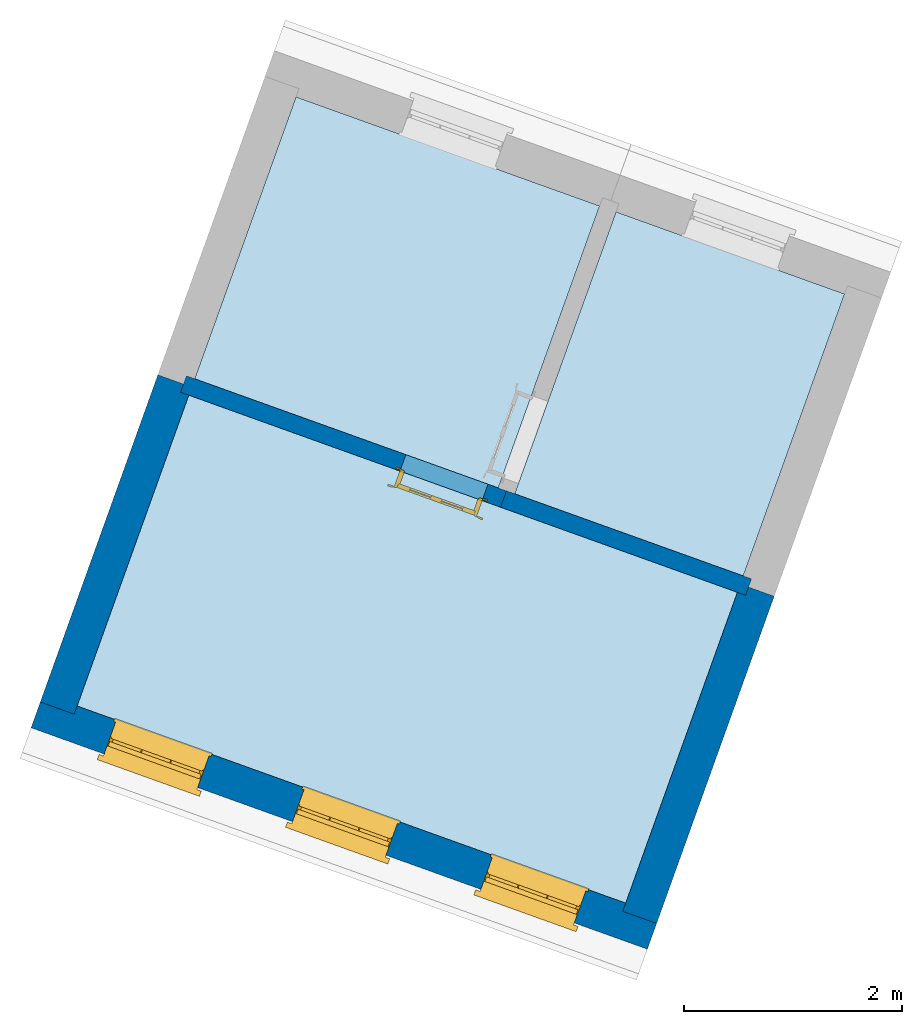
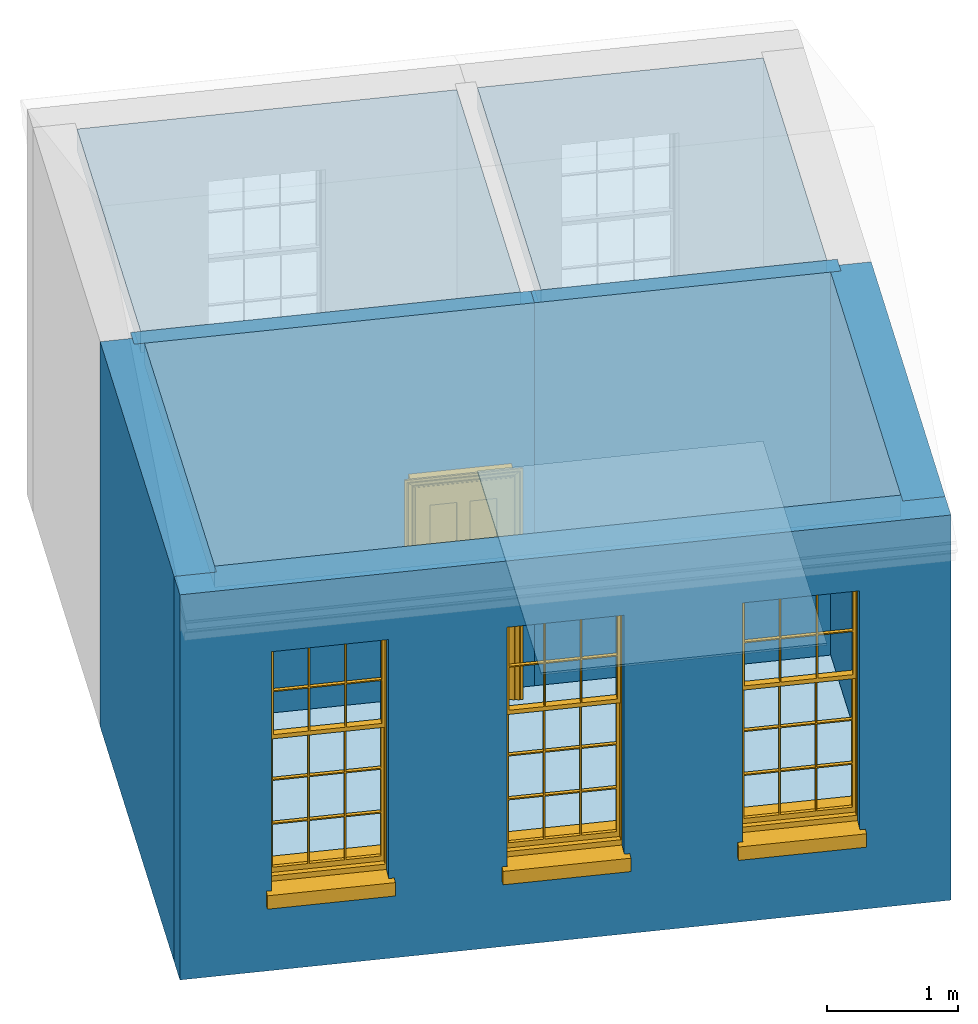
# One storey, part 1 of 3: 5 slabs, 5 walls, 3 windows, 1 door, 4 openings.
"""IFC4 building model written with IfcOpenShell, lengths in metres."""

import ifcopenshell
import ifcopenshell.guid

model = None  # the IFC model being written
_history = None  # IfcOwnerHistory: only IFC2X3 demands one
_inside = {}  # id of a spatial element -> (the spatial element, [elements in it])
_under = {}  # id of a project, library or spatial element -> (it, [spatial elements below it])
_declared = {}  # id of a project -> (the project, [libraries it declares])
_typed = {}  # id of a type object -> (the type object, [elements of that type])
_made_of = {}  # id of a material, layer set ... -> (it, [elements and type objects made of it])


def new_model(schema):
    """Start an empty IFC model of exactly this schema.

    Asked for "IFC4X3", IfcOpenShell would pick the latest addendum, in which some entities
    have other attributes; the version numbers below select the first issue.
    IFC2X3 requires an IfcOwnerHistory on every rooted entity: one is made here for all.
    """
    global model, _history
    if schema == "IFC4X3":
        model = ifcopenshell.file(schema_version=(4, 3, 0, 0))
    else:
        model = ifcopenshell.file(schema=schema)
    _inside.clear()
    _under.clear()
    _declared.clear()
    _typed.clear()
    _made_of.clear()
    _history = None
    if model.schema == "IFC2X3":
        org = make("IfcOrganization", Name="unknown")
        user = make(
            "IfcPersonAndOrganization",
            ThePerson=make("IfcPerson", FamilyName="unknown"),
            TheOrganization=org,
        )
        app = make(
            "IfcApplication",
            ApplicationDeveloper=org,
            Version="unknown",
            ApplicationFullName="unknown",
            ApplicationIdentifier="unknown",
        )
        _history = make(
            "IfcOwnerHistory",
            OwningUser=user,
            OwningApplication=app,
            ChangeAction="ADDED",
            CreationDate=0,
        )
    return model


def make(cls, **values):
    """One entity of the class cls with the attributes given. An attribute that is None is left unset."""
    return model.create_entity(
        cls, **{name: value for name, value in values.items() if value is not None}
    )


def rooted(cls, **values):
    """An entity with a GlobalId (a new one), such as an element, a storey or a relation."""
    return make(cls, GlobalId=ifcopenshell.guid.new(), OwnerHistory=_history, **values)


def si_unit(unit_type, name, prefix=None):
    """IfcSIUnit, for example si_unit("LENGTHUNIT", "METRE", prefix="MILLI")."""
    return make("IfcSIUnit", UnitType=unit_type, Prefix=prefix, Name=name)


def assignment(units):
    """IfcUnitAssignment: the units of a project."""
    return None if units is None else make("IfcUnitAssignment", Units=units)


def point(xyz):
    """IfcCartesianPoint."""
    return None if xyz is None else make("IfcCartesianPoint", Coordinates=xyz)


def direction(xyz):
    """IfcDirection."""
    return None if xyz is None else make("IfcDirection", DirectionRatios=xyz)


def frame(location, z_axis=None, x_axis=None):
    """IfcAxis2Placement3D, a coordinate frame: its origin and axes. An axis left out is left unset."""
    return make(
        "IfcAxis2Placement3D",
        Location=point(location),
        Axis=direction(z_axis),
        RefDirection=direction(x_axis),
    )


def origin():
    """The frame at (0, 0, 0) with its axes left unset."""
    return frame((0.0, 0.0, 0.0))


def origin_with_axes():
    """The frame at (0, 0, 0) with the z axis (0, 0, 1) and the x axis (1, 0, 0) written out."""
    return frame((0.0, 0.0, 0.0), z_axis=(0.0, 0.0, 1.0), x_axis=(1.0, 0.0, 0.0))


def place(relative_to, where):
    """IfcLocalPlacement: puts the frame where relative to a parent placement (None: the world)."""
    return make(
        "IfcLocalPlacement", PlacementRelTo=relative_to, RelativePlacement=where
    )


def context(
    kind, dimensions, precision=None, world=None, true_north=None, identifier=None
):
    """IfcGeometricRepresentationContext, for example the 3D "Model" context."""
    return make(
        "IfcGeometricRepresentationContext",
        ContextIdentifier=identifier,
        ContextType=kind,
        CoordinateSpaceDimension=dimensions,
        Precision=precision,
        WorldCoordinateSystem=world,
        TrueNorth=true_north,
    )


def subcontext(parent, identifier, kind, view, scale=None):
    """IfcGeometricRepresentationSubContext, for example "Body" below "Model"."""
    return make(
        "IfcGeometricRepresentationSubContext",
        ContextIdentifier=identifier,
        ContextType=kind,
        ParentContext=parent,
        TargetScale=scale,
        TargetView=view,
    )


def project(units=None, contexts=None):
    """IfcProject with its units and contexts."""
    return rooted(
        "IfcProject",
        Name="project",
        RepresentationContexts=contexts,
        UnitsInContext=assignment(units),
    )


def spatial(cls, under=None, at=None, **own):
    """A site, building, storey or space (cls), placed at a placement, below another one or the project."""
    s = rooted(cls, ObjectPlacement=at, **own)
    if under is not None:
        _under.setdefault(under.id(), (under, []))[1].append(s)
    return s


def polyline(points):
    """IfcPolyline through the points."""
    return make("IfcPolyline", Points=[point(p) for p in points])


def outline(outer, holes=None, kind="AREA"):
    """IfcArbitraryClosedProfileDef: a profile drawn as a closed curve; with holes, ...WithVoids."""
    if holes is None:
        return make("IfcArbitraryClosedProfileDef", ProfileType=kind, OuterCurve=outer)
    return make(
        "IfcArbitraryProfileDefWithVoids",
        ProfileType=kind,
        OuterCurve=outer,
        InnerCurves=holes,
    )


def extrude(swept, where, along, depth):
    """IfcExtrudedAreaSolid: the profile swept, set in the frame where, extruded along a direction by depth."""
    return make(
        "IfcExtrudedAreaSolid",
        SweptArea=swept,
        Position=where,
        ExtrudedDirection=direction(along),
        Depth=depth,
    )


def faces_of(points, faces, orient=None, outer=None):
    """IfcFace entities. A face is a list of loops; a loop is a list of indices into points, from 0.

    orient and outer hold one flag for each loop. By default every Orientation is true, the
    first loop of a face is its IfcFaceOuterBound and the others are IfcFaceBound.
    """
    made = []
    for i, loops in enumerate(faces):
        bounds = []
        for j, loop in enumerate(loops):
            is_outer = j == 0 if outer is None else outer[i][j]
            bounds.append(
                make(
                    "IfcFaceOuterBound" if is_outer else "IfcFaceBound",
                    Bound=make("IfcPolyLoop", Polygon=[points[k] for k in loop]),
                    Orientation=True if orient is None else orient[i][j],
                )
            )
        made.append(make("IfcFace", Bounds=bounds))
    return made


def faceted_brep(points, faces, orient=None, outer=None, voids=None):
    """IfcFacetedBrep: a solid bounded by flat faces; with voids (closed shells), ...WithVoids."""
    shared = [point(p) for p in points]
    hull = make("IfcClosedShell", CfsFaces=faces_of(shared, faces, orient, outer))
    if voids is None:
        return make("IfcFacetedBrep", Outer=hull)
    return make(
        "IfcFacetedBrepWithVoids",
        Outer=hull,
        Voids=[
            make(cls, CfsFaces=faces_of(shared, fs, o, b)) for cls, fs, o, b in voids
        ],
    )


def shape(context_of_items, identifier, shape_type, items):
    """IfcShapeRepresentation: the items that make up one representation, for example the "Body"."""
    return make(
        "IfcShapeRepresentation",
        ContextOfItems=context_of_items,
        RepresentationIdentifier=identifier,
        RepresentationType=shape_type,
        Items=items,
    )


def source(mapping_origin, context_of_items, identifier, shape_type, items):
    """IfcRepresentationMap: a shape defined once, which mapped items show again and again."""
    return make(
        "IfcRepresentationMap",
        MappingOrigin=mapping_origin,
        MappedRepresentation=shape(context_of_items, identifier, shape_type, items),
    )


def transform(
    local_origin,
    x_axis=None,
    y_axis=None,
    z_axis=None,
    scale=None,
    scale2=None,
    scale3=None,
    uniform=True,
):
    """IfcCartesianTransformationOperator3D, or its non-uniform kind. x_axis, y_axis, z_axis: its Axis1, 2, 3."""
    if uniform:
        return make(
            "IfcCartesianTransformationOperator3D",
            Axis1=direction(x_axis),
            Axis2=direction(y_axis),
            LocalOrigin=point(local_origin),
            Scale=scale,
            Axis3=direction(z_axis),
        )
    return make(
        "IfcCartesianTransformationOperator3DnonUniform",
        Axis1=direction(x_axis),
        Axis2=direction(y_axis),
        LocalOrigin=point(local_origin),
        Scale=scale,
        Axis3=direction(z_axis),
        Scale2=scale2,
        Scale3=scale3,
    )


def mapped(mapping_source, mapping_target):
    """IfcMappedItem: shows the shape of a source again, moved by a transform."""
    return make(
        "IfcMappedItem", MappingSource=mapping_source, MappingTarget=mapping_target
    )


def material(Name=None, Category=None):
    """IfcMaterial."""
    return make("IfcMaterial", Name=Name, Category=Category)


def layer(
    of_material, thickness, ventilated=None, Name=None, Category=None, Priority=None
):
    """IfcMaterialLayer: one layer of a wall or slab, of a material (None: an air gap)."""
    return make(
        "IfcMaterialLayer",
        Material=of_material,
        LayerThickness=thickness,
        IsVentilated=ventilated,
        Name=Name,
        Category=Category,
        Priority=Priority,
    )


def layer_set(layers, Name=None):
    """IfcMaterialLayerSet."""
    return make("IfcMaterialLayerSet", MaterialLayers=layers, LayerSetName=Name)


def layer_usage(for_layer_set, set_direction, sense, offset, extent=None):
    """IfcMaterialLayerSetUsage: how a layer set lies in its element."""
    return make(
        "IfcMaterialLayerSetUsage",
        ForLayerSet=for_layer_set,
        LayerSetDirection=set_direction,
        DirectionSense=sense,
        OffsetFromReferenceLine=offset,
        ReferenceExtent=extent,
    )


def made_of(thing, what):
    """Note that an element or type object is made of a material, layer set ...; save() writes the relation."""
    if what is not None:
        _made_of.setdefault(what.id(), (what, []))[1].append(thing)
    return thing


def type_object(cls, material=None, **own):
    """A type object (cls), such as IfcWallType, which elements share."""
    return made_of(rooted(cls, **own), material)


def type_shapes(of_type, sources):
    """Give a type object the sources (RepresentationMaps) that its elements show as mapped items."""
    of_type.RepresentationMaps = sources


def element(
    cls,
    number,
    at=None,
    inside=None,
    cuts=None,
    type_object=None,
    material=None,
    context=None,
    identifier="Body",
    shape_type=None,
    held_by="IfcProductDefinitionShape",
    body=None,
    shapes=None,
    **own,
):
    """One element of the class cls, such as IfcWall. Its Tag is "e" and its number.

    at: its placement. inside: the storey or other place that contains it. cuts: it is an
    opening in that element (IfcRelVoidsElement). A single representation is given by context,
    identifier, shape_type and body (its items); several are given by shapes. held_by: the class
    of the entity that holds the representations. save() writes the other relations.
    """
    e = rooted(cls, Tag="e%d" % number, ObjectPlacement=at, **own)
    if body is not None:
        shapes = [shape(context, identifier, shape_type, body)]
    if shapes is not None:
        e.Representation = make(held_by, Representations=shapes)
    if inside is not None:
        _inside.setdefault(inside.id(), (inside, []))[1].append(e)
    if cuts is not None:
        rooted(
            "IfcRelVoidsElement", RelatingBuildingElement=cuts, RelatedOpeningElement=e
        )
    if type_object is not None:
        _typed.setdefault(type_object.id(), (type_object, []))[1].append(e)
    return made_of(e, material)


def fill(opening, filler):
    """IfcRelFillsElement: the door or window that sits in an opening."""
    return rooted(
        "IfcRelFillsElement",
        RelatingOpeningElement=opening,
        RelatedBuildingElement=filler,
    )


def aggregate(whole, parts):
    """IfcRelAggregates: a whole, such as a stair, and the parts it consists of."""
    return rooted("IfcRelAggregates", RelatingObject=whole, RelatedObjects=parts)


def save(model, path):
    """Write the relations noted so far, then the file.

    IfcRelAggregates (storeys below a building ...), IfcRelContainedInSpatialStructure (elements
    in a storey), IfcRelDefinesByType, IfcRelAssociatesMaterial and IfcRelDeclares: one each for
    every whole, place, type object, material and project.
    """
    for whole, parts in _under.values():
        aggregate(whole, parts)
    for where, things in _inside.values():
        rooted(
            "IfcRelContainedInSpatialStructure",
            RelatedElements=things,
            RelatingStructure=where,
        )
    for kind, things in _typed.values():
        rooted("IfcRelDefinesByType", RelatedObjects=things, RelatingType=kind)
    for what, things in _made_of.values():
        rooted("IfcRelAssociatesMaterial", RelatedObjects=things, RelatingMaterial=what)
    for by, libraries in _declared.values():
        rooted("IfcRelDeclares", RelatingContext=by, RelatedDefinitions=libraries)
    model.write(path)


model = new_model("IFC4")

# Units and contexts
model_context = context("Model", 3, world=origin_with_axes())
body_context = subcontext(model_context, "Body", "Model", "MODEL_VIEW")
ifc_project = project(units=[si_unit("PLANEANGLEUNIT", "RADIAN"), si_unit("MASSUNIT", "GRAM", prefix="KILO"), si_unit("FORCEUNIT", "NEWTON", prefix="KILO"), si_unit("LENGTHUNIT", "METRE"), si_unit("AREAUNIT", "SQUARE_METRE"), si_unit("VOLUMEUNIT", "CUBIC_METRE")], contexts=[model_context, model_context])

# Sites, building, storey
site_1_placement = place(None, origin_with_axes())
site_1 = spatial("IfcSite", under=ifc_project, at=site_1_placement, Name="Tamar")
site_2_placement = place(site_1_placement, origin_with_axes())
site_2 = spatial("IfcSite", under=site_1, at=site_2_placement, Name="Site plot-25", CompositionType="ELEMENT")
building_placement = place(None, origin_with_axes())
building = spatial("IfcBuilding", under=site_2, at=building_placement, Name="Building plot-25", CompositionType="ELEMENT")
storey_placement = place(None, frame((0.0, 0.0, 29.45), z_axis=(0.0, 0.0, 1.0), x_axis=(1.0, 0.0, 0.0)))
storey = spatial("IfcBuildingStorey", under=building, at=storey_placement, Name="plot-25 1", CompositionType="ELEMENT", Elevation=29.45)

# Slabs
slab_1_placement = place(storey_placement, frame((274.359324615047, 272.113930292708, 3.4)))
element("IfcSlab", 1, at=slab_1_placement, inside=storey, Name="My Slab", ObjectType="Slab", PredefinedType="FLOOR", context=body_context, shape_type="SweptSolid", body=[
    extrude(outline(polyline([(0.0, 0.0), (5.02540546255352, -1.80579620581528), (6.04841961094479, 1.04118114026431), (1.02301414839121, 2.84697734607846), (0.0, 0.0)])), origin_with_axes(), (0.0, 0.0, 1.0), 0.2),
])
slab_2_placement = place(storey_placement, frame((274.359324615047, 272.113930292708, 0.0)))
element("IfcSlab", 2, at=slab_2_placement, inside=storey, Name="My Slab", ObjectType="Slab", PredefinedType="FLOOR", context=body_context, shape_type="SweptSolid", body=[
    extrude(outline(polyline([(0.0, 0.0), (5.02540546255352, -1.80579620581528), (6.04841961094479, 1.04118114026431), (1.02301414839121, 2.84697734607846), (0.0, 0.0)])), origin_with_axes(), (0.0, 0.0, 1.0), 0.02),
])
slab_3_placement = place(storey_placement, frame((278.368067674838, 274.058051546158, 3.4)))
element("IfcSlab", 3, at=slab_3_placement, inside=storey, Name="My Slab", ObjectType="Slab", PredefinedType="FLOOR", context=body_context, shape_type="SweptSolid", body=[
    extrude(outline(polyline([(0.0, 0.0), (2.09378280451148, -0.752366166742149), (3.02176997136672, 1.83015768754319), (0.927987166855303, 2.58252385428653), (0.0, 0.0)])), origin_with_axes(), (0.0, 0.0, 1.0), 0.2),
])
slab_4_placement = place(storey_placement, frame((278.368067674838, 274.058051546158, 0.0)))
element("IfcSlab", 4, at=slab_4_placement, inside=storey, Name="My Slab", ObjectType="Slab", PredefinedType="FLOOR", context=body_context, shape_type="SweptSolid", body=[
    extrude(outline(polyline([(0.0, 0.0), (2.09378280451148, -0.752366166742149), (3.02176997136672, 1.83015768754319), (0.927987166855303, 2.58252385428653), (0.0, 0.0)])), origin_with_axes(), (0.0, 0.0, 1.0), 0.02),
])
slab_5_placement = place(storey_placement, frame((275.436445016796, 275.11148158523, 3.4)))
element("IfcSlab", 5, at=slab_5_placement, inside=storey, Name="My Slab", ObjectType="Slab", PredefinedType="FLOOR", context=body_context, shape_type="SweptSolid", body=[
    extrude(outline(polyline([(0.0, 0.0), (2.78104871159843, -0.999323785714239), (3.70903587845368, 1.58320006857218), (0.927987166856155, 2.58252385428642), (0.0, 0.0)])), origin_with_axes(), (0.0, 0.0, 1.0), 0.2),
])

# Wall, openings, windows
ifc_material_1 = material(Name="Masonry")
ifc_layer_1 = layer(ifc_material_1, 0.33, ventilated=False)
ifc_layer_set_1 = layer_set([ifc_layer_1], Name="exterior_0.08_0.25")
ifc_layer_usage_1 = layer_usage(ifc_layer_set_1, "AXIS2", "POSITIVE", -0.25)
wall_type_1 = type_object("IfcWallType", Name="exterior_0.08_0.25", PredefinedType="SOLIDWALL", material=ifc_layer_set_1)
wall_1_placement = place(storey_placement, frame((274.256984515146, 272.065696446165, 0.0), z_axis=(0.0, 0.0, 1.0), x_axis=(0.9410871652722, -0.338164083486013, 0.0)))
wall_1 = element("IfcWall", 6, at=wall_1_placement, inside=storey, type_object=wall_type_1, material=ifc_layer_usage_1, Name="exterior", context=body_context, shape_type="SweptSolid", body=[
    extrude(outline(polyline([(-0.249999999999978, 0.0799999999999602), (-0.24999999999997, -0.250000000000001), (5.74999999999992, -0.24999999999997), (5.74999999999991, 0.0799999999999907), (-0.249999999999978, 0.0799999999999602)])), origin_with_axes(), (0.0, 0.0, 1.0), 3.6),
])
opening_1_placement = place(wall_1_placement, frame((0.461666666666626, 0.0, 0.75)))
opening_1 = element("IfcOpeningElement", 7, at=opening_1_placement, cuts=wall_1, Name="My Opening", ObjectType="Opening", context=body_context, shape_type="SweptSolid", body=[
    extrude(outline(polyline([(0.0, -0.270000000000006), (0.910000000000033, -0.269999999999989), (0.910000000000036, 1.10000000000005), (2.88657986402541e-15, 1.10000000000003), (0.0, -0.270000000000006)])), origin_with_axes(), (0.0, 0.0, 1.0), 2.23),
])
opening_2_placement = place(wall_1_placement, frame((2.29499999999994, 0.0, 0.75)))
opening_2 = element("IfcOpeningElement", 8, at=opening_2_placement, cuts=wall_1, Name="My Opening", ObjectType="Opening", context=body_context, shape_type="SweptSolid", body=[
    extrude(outline(polyline([(0.0, -0.270000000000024), (0.910000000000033, -0.270000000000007), (0.910000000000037, 1.10000000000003), (3.10862446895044e-15, 1.10000000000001), (0.0, -0.270000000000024)])), origin_with_axes(), (0.0, 0.0, 1.0), 2.23),
])
opening_3_placement = place(wall_1_placement, frame((4.12833333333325, 0.0, 0.75)))
opening_3 = element("IfcOpeningElement", 9, at=opening_3_placement, cuts=wall_1, Name="My Opening", ObjectType="Opening", context=body_context, shape_type="SweptSolid", body=[
    extrude(outline(polyline([(0.0, -0.270000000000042), (0.910000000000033, -0.270000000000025), (0.910000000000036, 1.10000000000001), (3.5527136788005e-15, 1.09999999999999), (0.0, -0.270000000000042)])), origin_with_axes(), (0.0, 0.0, 1.0), 2.23),
])
window_type = type_object("IfcWindowType", Name="sash_big_taller", PartitioningType="DOUBLE_PANEL_HORIZONTAL", PredefinedType="NOTDEFINED")
shared_shape_1 = source(origin(), body_context, "Body", "Brep", [
    faceted_brep([(0.033125, 0.145, 1.385209), (0.01, 0.145, 1.385209), (0.033125, 0.145, 1.786042), (0.876875, 0.145, 1.385209), (0.876875, 0.145, 1.786042), (0.9, 0.145, 1.385209), (0.876875, 0.145, 1.796042), (0.876875, 0.145, 2.196875), (0.9, 0.145, 2.22), (0.033125, 0.145, 2.196875), (0.033125, 0.145, 1.796042), (0.01, 0.145, 2.22), (0.876875, 0.115, 1.786042), (0.876875, 0.115, 1.385209), (0.9, 0.115, 1.347084), (0.033125, 0.115, 2.196875), (0.01, 0.115, 2.22), (0.033125, 0.115, 1.796042), (0.01, 0.115, 1.347084), (0.033125, 0.115, 1.385209), (0.033125, 0.115, 1.786042), (0.876875, 0.115, 2.196875), (0.876875, 0.115, 1.796042), (0.9, 0.115, 2.22), (0.033125, 0.145, 1.347084), (0.01, 0.145, 1.347084), (0.033125, 0.145, 0.94625), (0.876875, 0.145, 1.347084), (0.876875, 0.145, 0.94625), (0.9, 0.145, 1.347084), (0.876875, 0.145, 0.52625), (0.876875, 0.145, 0.125417), (0.9, 0.145, 0.077167), (0.033125, 0.145, 0.125417), (0.033125, 0.145, 0.52625), (0.01, 0.145, 0.077167), (-0.0425, 0.0, 0.01), (-0.0425, -0.05, 0.001667), (0.0, 0.0, 0.01), (0.9525, 0.0, 0.01), (0.91, 0.0, 0.01), (0.9525, -0.05, 0.001667), (-0.02, 0.33, 0.077167), (0.0, 0.33, 0.077167), (-0.02, 0.36, 0.077167), (0.0, 0.19, 0.077167), (0.01, 0.19, 0.077167), (0.91, 0.19, 0.077167), (0.91, 0.33, 0.077167), (0.9, 0.19, 0.077167), (0.93, 0.33, 0.077167), (0.93, 0.36, 0.077167), (0.01, 0.175, 1.385209), (0.9, 0.175, 1.385209), (0.876875, 0.175, 0.125417), (0.876875, 0.175, 0.52625), (0.9, 0.175, 0.077167), (0.876875, 0.175, 0.94625), (0.876875, 0.175, 1.347084), (0.033125, 0.175, 0.125417), (0.01, 0.175, 0.077167), (0.033125, 0.175, 0.52625), (0.033125, 0.175, 1.347084), (0.033125, 0.175, 0.94625), (-0.02, 0.33, 0.052167), (-0.02, 0.36, 0.052167), (0.93, 0.36, 0.052167), (0.93, 0.33, 0.052167), (0.91, 0.33, 0.052167), (0.0, 0.33, 0.052167), (0.91, 0.1, 0.026667), (0.0, 0.1, 0.026667), (-0.0425, -0.05, -0.123333), (0.9525, -0.05, -0.123333), (-0.0425, 0.0, -0.123333), (0.9525, 0.0, -0.123333), (0.01, 0.19, 2.22), (0.9, 0.19, 2.22), (0.0, 0.19, 2.23), (0.91, 0.19, 2.23), (0.01, 0.1, 0.077167), (0.9, 0.1, 0.077167), (0.592292, 0.145, 0.125417), (0.592292, 0.175, 0.125417), (0.317708, 0.175, 0.125417), (0.317708, 0.145, 0.125417), (0.592292, 0.145, 0.53625), (0.317708, 0.145, 0.53625), (0.317708, 0.145, 0.52625), (0.592292, 0.145, 0.52625), (0.592292, 0.175, 0.53625), (0.317708, 0.175, 0.53625), (0.592292, 0.115, 1.796042), (0.592292, 0.145, 1.796042), (0.317708, 0.145, 1.796042), (0.317708, 0.115, 1.796042), (0.317708, 0.115, 1.786042), (0.592292, 0.115, 1.786042), (0.317708, 0.145, 1.786042), (0.592292, 0.145, 1.786042), (0.602292, 0.115, 1.786042), (0.592292, 0.115, 1.385209), (0.602292, 0.115, 1.385209), (0.602292, 0.145, 1.385209), (0.592292, 0.145, 1.385209), (0.602292, 0.145, 1.786042), (0.876875, 0.145, 0.53625), (0.876875, 0.175, 0.53625), (0.602292, 0.175, 0.53625), (0.602292, 0.145, 0.53625), (0.317708, 0.175, 0.52625), (0.307708, 0.175, 0.125417), (0.307708, 0.175, 0.52625), (0.602292, 0.175, 0.52625), (0.602292, 0.175, 0.125417), (0.592292, 0.175, 0.52625), (0.307708, 0.175, 0.53625), (0.033125, 0.175, 0.53625), (0.317708, 0.175, 1.347084), (0.317708, 0.175, 0.94625), (0.307708, 0.175, 0.94625), (0.307708, 0.175, 1.347084), (0.602292, 0.175, 1.347084), (0.602292, 0.175, 0.94625), (0.592292, 0.175, 0.94625), (0.592292, 0.175, 1.347084), (0.307708, 0.145, 0.52625), (0.307708, 0.145, 0.125417), (0.307708, 0.145, 0.53625), (0.033125, 0.145, 0.53625), (0.307708, 0.145, 1.347084), (0.307708, 0.145, 0.94625), (0.592292, 0.145, 1.347084), (0.592292, 0.145, 0.94625), (0.317708, 0.145, 0.94625), (0.317708, 0.145, 1.347084), (0.602292, 0.145, 0.94625), (0.602292, 0.145, 1.347084), (0.602292, 0.145, 0.52625), (0.602292, 0.145, 0.125417), (0.307708, 0.115, 1.796042), (0.307708, 0.115, 1.786042), (0.307708, 0.115, 1.385209), (0.317708, 0.115, 1.385209), (0.317708, 0.115, 2.196875), (0.307708, 0.115, 2.196875), (0.602292, 0.115, 2.196875), (0.592292, 0.115, 2.196875), (0.602292, 0.115, 1.796042), (0.602292, 0.145, 1.796042), (0.307708, 0.145, 1.796042), (0.307708, 0.145, 2.196875), (0.317708, 0.145, 2.196875), (0.592292, 0.145, 2.196875), (0.602292, 0.145, 2.196875), (0.307708, 0.145, 1.786042), (0.317708, 0.145, 1.385209), (0.307708, 0.145, 1.385209), (0.876875, 0.175, 0.93625), (0.033125, 0.175, 0.93625), (0.033125, 0.145, 0.93625), (0.876875, 0.145, 0.93625), (0.91, 0.1, 2.23), (0.9, 0.1, 2.22), (0.01, 0.1, 2.22), (0.0, 0.1, 2.23), (0.91, 0.0, 0.0), (0.0, 0.0, 0.0), (0.91, 0.33, 0.0), (0.0, 0.33, 0.0), (0.317708, 0.145, 0.93625), (0.592292, 0.145, 0.93625), (0.317708, 0.175, 0.93625), (0.307708, 0.175, 0.93625), (0.602292, 0.175, 0.93625), (0.592292, 0.175, 0.93625), (0.307708, 0.145, 0.93625), (0.602292, 0.145, 0.93625)], [[[0, 1, 2]], [[3, 4, 5]], [[6, 7, 8]], [[9, 10, 11]], [[12, 13, 14]], [[15, 16, 17]], [[18, 19, 20]], [[21, 22, 23]], [[24, 25, 26]], [[27, 28, 29]], [[30, 31, 32]], [[33, 34, 35]], [[14, 27, 29]], [[25, 24, 18]], [[36, 37, 38]], [[39, 40, 41]], [[42, 43, 44]], [[45, 46, 43]], [[47, 48, 49]], [[50, 51, 48]], [[1, 0, 52]], [[5, 53, 3]], [[54, 55, 56]], [[57, 58, 53]], [[59, 60, 61]], [[62, 63, 52]], [[48, 43, 46, 49]], [[51, 44, 43, 48]], [[64, 42, 44, 65]], [[65, 44, 51, 66]], [[66, 51, 50, 67]], [[65, 66, 68, 69]], [[60, 56, 49, 46]], [[70, 71, 38, 40]], [[37, 41, 40, 38]], [[37, 72, 73, 41]], [[74, 75, 73, 72]], [[8, 11, 76, 77]], [[76, 78, 79, 77]], [[32, 35, 80, 81]], [[81, 80, 71, 70]], [[82, 83, 84, 85]], [[86, 87, 88, 89]], [[86, 90, 91, 87]], [[92, 93, 94, 95]], [[92, 95, 96, 97]], [[96, 98, 99, 97]], [[100, 97, 101, 102]], [[103, 104, 99, 105]], [[97, 99, 104, 101]], [[102, 103, 105, 100]], [[106, 107, 108, 109]], [[110, 84, 111, 112]], [[113, 114, 83, 115]], [[116, 112, 61, 117]], [[90, 115, 110, 91]], [[118, 119, 120, 121]], [[122, 123, 124, 125]], [[113, 108, 107, 55]], [[126, 112, 111, 127]], [[34, 61, 112, 126]], [[89, 115, 83, 82]], [[88, 110, 115, 89]], [[85, 84, 110, 88]], [[128, 116, 117, 129]], [[130, 121, 120, 131]], [[132, 125, 124, 133]], [[134, 119, 118, 135]], [[136, 123, 122, 137]], [[138, 113, 55, 30]], [[139, 114, 113, 138]], [[138, 30, 106, 109]], [[88, 126, 127, 85]], [[138, 89, 82, 139]], [[137, 132, 133, 136]], [[128, 129, 34, 126]], [[135, 130, 131, 134]], [[140, 17, 20, 141]], [[96, 141, 142, 143]], [[144, 145, 140, 95]], [[146, 147, 92, 148]], [[100, 12, 22, 148]], [[149, 6, 4, 105]], [[94, 150, 151, 152]], [[149, 93, 153, 154]], [[99, 98, 94, 93]], [[155, 2, 10, 150]], [[156, 157, 155, 98]], [[141, 155, 157, 142]], [[20, 2, 155, 141]], [[143, 156, 98, 96]], [[140, 150, 10, 17]], [[145, 151, 150, 140]], [[147, 153, 93, 92]], [[95, 94, 152, 144]], [[22, 6, 149, 148]], [[148, 149, 154, 146]], [[100, 105, 4, 12]], [[109, 86, 89, 138]], [[108, 113, 115, 90]], [[91, 110, 112, 116]], [[87, 128, 126, 88]], [[97, 100, 148, 92]], [[141, 96, 95, 140]], [[98, 155, 150, 94]], [[105, 99, 93, 149]], [[143, 101, 104, 156]], [[135, 118, 125, 132]], [[144, 152, 153, 147]], [[127, 111, 59, 33]], [[15, 9, 151, 145]], [[146, 154, 7, 21]], [[31, 54, 114, 139]], [[36, 74, 72, 37]], [[39, 41, 73, 75]], [[18, 14, 101, 143]], [[23, 16, 144, 147]], [[83, 56, 60, 84]], [[52, 53, 125, 118]], [[53, 52, 156, 104]], [[11, 8, 153, 152]], [[14, 18, 135, 132]], [[2, 1, 11, 10]], [[8, 5, 4, 6]], [[57, 53, 56, 158]], [[60, 52, 63, 159]], [[26, 25, 35, 160]], [[32, 29, 28, 161]], [[14, 23, 22, 12]], [[18, 20, 17, 16]], [[19, 0, 2, 20]], [[17, 10, 9, 15]], [[12, 4, 3, 13]], [[21, 7, 6, 22]], [[27, 58, 57, 28]], [[30, 55, 54, 31]], [[33, 59, 61, 34]], [[26, 63, 62, 24]], [[5, 8, 77, 53]], [[76, 11, 1, 52]], [[46, 45, 78, 76]], [[49, 77, 79, 47]], [[70, 162, 163, 81]], [[71, 80, 164, 165]], [[19, 142, 157, 0]], [[102, 13, 3, 103]], [[121, 130, 24, 62]], [[29, 32, 81, 14]], [[80, 35, 25, 18]], [[60, 46, 76, 52]], [[77, 49, 56, 53]], [[23, 14, 81, 163]], [[16, 164, 80, 18]], [[35, 85, 127]], [[127, 33, 35]], [[139, 82, 32]], [[32, 31, 139]], [[32, 82, 85, 35]], [[102, 101, 14]], [[14, 13, 102]], [[18, 143, 142]], [[142, 19, 18]], [[146, 21, 23]], [[23, 147, 146]], [[16, 15, 145]], [[145, 144, 16]], [[11, 152, 151]], [[151, 9, 11]], [[154, 153, 8]], [[8, 7, 154]], [[23, 163, 164, 16]], [[162, 165, 164, 163]], [[52, 118, 121]], [[121, 62, 52]], [[125, 53, 122]], [[58, 122, 53]], [[27, 137, 122, 58]], [[56, 83, 114]], [[114, 54, 56]], [[111, 84, 60]], [[60, 59, 111]], [[137, 27, 14]], [[14, 132, 137]], [[130, 135, 18]], [[18, 24, 130]], [[157, 156, 52]], [[52, 0, 157]], [[103, 3, 53]], [[53, 104, 103]], [[79, 78, 165, 162]], [[78, 45, 71, 165]], [[162, 70, 47, 79]], [[166, 75, 74, 167]], [[68, 66, 67]], [[48, 68, 67, 50]], [[69, 64, 65]], [[42, 64, 69, 43]], [[69, 68, 168, 169]], [[70, 68, 48, 47]], [[166, 168, 68, 70]], [[43, 69, 71, 45]], [[69, 169, 167, 71]], [[168, 166, 167, 169]], [[38, 167, 74, 36]], [[71, 167, 38]], [[39, 75, 166, 40]], [[40, 166, 70]], [[133, 134, 170, 171]], [[133, 124, 119, 134]], [[28, 57, 123, 136]], [[172, 91, 116, 173]], [[174, 108, 90, 175]], [[120, 173, 159, 63]], [[124, 175, 172, 119]], [[174, 123, 57, 158]], [[176, 173, 116, 128]], [[160, 159, 173, 176]], [[171, 175, 90, 86]], [[170, 172, 175, 171]], [[87, 91, 172, 170]], [[131, 120, 63, 26]], [[177, 174, 158, 161]], [[109, 108, 174, 177]], [[177, 161, 28, 136]], [[170, 176, 128, 87]], [[177, 171, 86, 109]], [[131, 26, 160, 176]], [[136, 133, 171, 177]], [[123, 174, 175, 124]], [[119, 172, 173, 120]], [[134, 131, 176, 170]], [[129, 117, 159, 160]], [[161, 158, 107, 106]], [[35, 34, 129]], [[35, 129, 160]], [[32, 106, 30]], [[32, 161, 106]], [[56, 55, 107]], [[56, 107, 158]], [[60, 117, 61]], [[60, 159, 117]]]),
])
type_shapes(window_type, [shared_shape_1])
window_1_placement = place(storey_placement, frame((274.600148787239, 271.655483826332, 0.75), z_axis=(0.0, 0.0, 1.0), x_axis=(0.856389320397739, -0.307729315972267, 0.0)))
window_1 = element("IfcWindow", 10, at=window_1_placement, inside=storey, type_object=window_type, Name="bedroom outside window", OverallHeight=2.23, OverallWidth=0.91, context=body_context, shape_type="MappedRepresentation", body=[
    mapped(shared_shape_1, transform((0.0, 0.0, 0.0), scale=1.0)),
])
fill(opening_1, window_1)
window_2_placement = place(storey_placement, frame((276.325475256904, 271.035516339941, 0.75), z_axis=(0.0, 0.0, 1.0), x_axis=(0.856389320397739, -0.307729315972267, 0.0)))
window_2 = element("IfcWindow", 11, at=window_2_placement, inside=storey, type_object=window_type, Name="bedroom outside window", OverallHeight=2.23, OverallWidth=0.91, context=body_context, shape_type="MappedRepresentation", body=[
    mapped(shared_shape_1, transform((0.0, 0.0, 0.0), scale=1.0)),
])
fill(opening_2, window_2)
window_3_placement = place(storey_placement, frame((278.05080172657, 270.41554885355, 0.75), z_axis=(0.0, 0.0, 1.0), x_axis=(0.856389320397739, -0.307729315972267, 0.0)))
window_3 = element("IfcWindow", 12, at=window_3_placement, inside=storey, type_object=window_type, Name="bedroom outside window", OverallHeight=2.23, OverallWidth=0.91, context=body_context, shape_type="MappedRepresentation", body=[
    mapped(shared_shape_1, transform((0.0, 0.0, 0.0), scale=1.0)),
])
fill(opening_3, window_3)

# Walls
ifc_material_2 = material(Name="Masonry")
ifc_layer_2 = layer(ifc_material_2, 0.33, ventilated=False)
ifc_layer_set_2 = layer_set([ifc_layer_2], Name="party_0.08_0.25")
ifc_layer_usage_2 = layer_usage(ifc_layer_set_2, "AXIS2", "POSITIVE", -0.25)
wall_type_2 = type_object("IfcWallType", Name="party_0.08_0.25", PredefinedType="SOLIDWALL", material=ifc_layer_set_2)
wall_2_placement = place(storey_placement, frame((279.432963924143, 270.205793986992, 0.0), z_axis=(0.0, 0.0, 1.0), x_axis=(0.338164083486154, 0.941087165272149, 0.0)))
element("IfcWall", 13, at=wall_2_placement, inside=storey, type_object=wall_type_2, material=ifc_layer_usage_2, Name="party", context=body_context, shape_type="SweptSolid", body=[
    extrude(outline(polyline([(-4.9156098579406e-15, 0.0799999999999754), (-7.06336881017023e-16, -0.250000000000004), (3.18520048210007, -0.250000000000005), (3.18520048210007, 0.0799999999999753), (-4.9156098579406e-15, 0.0799999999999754)])), origin_with_axes(), (0.0, 0.0, 1.0), 3.6),
])
wall_3_placement = place(storey_placement, frame((275.334104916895, 275.063247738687, 0.0), z_axis=(0.0, 0.0, 1.0), x_axis=(-0.338164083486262, -0.94108716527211, 0.0)))
element("IfcWall", 14, at=wall_3_placement, inside=storey, type_object=wall_type_2, material=ifc_layer_usage_2, Name="party", context=body_context, shape_type="SweptSolid", body=[
    extrude(outline(polyline([(-1.40834419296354e-14, 0.0799999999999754), (2.79929283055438e-14, -0.250000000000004), (3.18520048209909, -0.250000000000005), (3.18520048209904, 0.079999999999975), (-1.40834419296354e-14, 0.0799999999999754)])), origin_with_axes(), (0.0, 0.0, 1.0), 3.6),
])
ifc_material_3 = material(Name="Masonry")
ifc_layer_3 = layer(ifc_material_3, 0.16, ventilated=False)
ifc_layer_set_3 = layer_set([ifc_layer_3], Name="interior_0.08_0.08")
ifc_layer_usage_3 = layer_usage(ifc_layer_set_3, "AXIS2", "POSITIVE", -0.08)
wall_type_3 = type_object("IfcWallType", Name="interior_0.08_0.08", PredefinedType="SOLIDWALL", material=ifc_layer_set_3)
wall_4_placement = place(storey_placement, frame((280.510084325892, 273.203345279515, 0.0), z_axis=(0.0, 0.0, 1.0), x_axis=(-0.941087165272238, 0.338164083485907, 0.0)))
element("IfcWall", 15, at=wall_4_placement, inside=storey, type_object=wall_type_3, material=ifc_layer_usage_3, Name="interior", context=body_context, shape_type="SweptSolid", body=[
    extrude(outline(polyline([(-3.12148945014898e-15, 0.0800000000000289), (3.13128662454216e-15, -0.0800000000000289), (2.38485533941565, -0.0800000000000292), (2.38485533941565, 0.0800000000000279), (-3.12148945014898e-15, 0.0800000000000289)])), origin_with_axes(), (0.0, 0.0, 1.0), 3.6),
])

# Wall, opening, door
wall_5_placement = place(storey_placement, frame((278.265727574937, 274.009817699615, 0.0), z_axis=(0.0, 0.0, 1.0), x_axis=(-0.941087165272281, 0.338164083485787, 0.0)))
wall_5 = element("IfcWall", 16, at=wall_5_placement, inside=storey, type_object=wall_type_3, material=ifc_layer_usage_3, Name="interior", context=body_context, shape_type="SweptSolid", body=[
    extrude(outline(polyline([(7.07479880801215e-15, 0.0800000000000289), (-7.06500163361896e-15, -0.0800000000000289), (3.1151446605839, -0.080000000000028), (3.11514466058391, 0.0800000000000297), (7.07479880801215e-15, 0.0800000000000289)])), origin_with_axes(), (0.0, 0.0, 1.0), 3.6),
])
opening_4_placement = place(wall_5_placement, frame((0.180000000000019, 0.0, 0.0199999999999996)))
opening_4 = element("IfcOpeningElement", 17, at=opening_4_placement, cuts=wall_5, Name="My Opening", ObjectType="Opening", context=body_context, shape_type="SweptSolid", body=[
    extrude(outline(polyline([(0.0, -0.09999999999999), (0.799999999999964, -0.0999999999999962), (0.799999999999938, 1.09999999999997), (-2.71449529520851e-14, 1.09999999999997), (0.0, -0.09999999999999)])), origin_with_axes(), (0.0, 0.0, 1.0), 2.1),
])
door_type = type_object("IfcDoorType", Name="door_inside", OperationType="SINGLE_SWING_LEFT", PredefinedType="NOTDEFINED")
shared_shape_2 = source(origin(), body_context, "Body", "Brep", [
    faceted_brep([(0.773, 0.33, 1.895), (0.66, 0.33, 1.895), (0.66, 0.33, 2.073), (0.773, 0.33, 2.073), (0.773, 0.33, 0.82), (0.66, 0.33, 0.82), (0.45, 0.33, 1.895), (0.45, 0.33, 2.073), (0.773, 0.33, 0.62), (0.66, 0.33, 0.62), (0.66, 0.315, 0.82), (0.66, 0.315, 1.895), (0.45, 0.315, 1.895), (0.35, 0.33, 1.895), (0.35, 0.33, 2.073), (0.773, 0.33, 0.225), (0.66, 0.33, 0.225), (0.45, 0.33, 0.62), (0.45, 0.33, 0.82), (0.45, 0.315, 0.82), (0.35, 0.33, 0.82), (0.14, 0.33, 2.073), (0.14, 0.33, 1.895), (0.773, 0.33, 0.0), (0.66, 0.33, 0.0), (0.66, 0.315, 0.225), (0.66, 0.315, 0.62), (0.45, 0.315, 0.62), (0.35, 0.33, 0.62), (0.35, 0.315, 0.82), (0.35, 0.315, 1.895), (0.14, 0.315, 1.895), (0.027, 0.33, 2.073), (0.027, 0.33, 1.895), (0.773, 0.292, 0.0), (0.66, 0.292, 0.0), (0.45, 0.33, 0.0), (0.45, 0.33, 0.225), (0.45, 0.315, 0.225), (0.35, 0.33, 0.225), (0.14, 0.33, 0.82), (0.14, 0.33, 0.62), (0.14, 0.315, 0.82), (0.027, 0.33, 0.82), (0.773, 0.292, 0.225), (0.66, 0.292, 0.225), (0.45, 0.292, 0.0), (0.35, 0.33, 0.0), (0.35, 0.315, 0.225), (0.35, 0.315, 0.62), (0.14, 0.315, 0.62), (0.027, 0.33, 0.62), (0.773, 0.292, 0.62), (0.66, 0.292, 0.62), (0.45, 0.292, 0.225), (0.35, 0.292, 0.0), (0.14, 0.33, 0.225), (0.14, 0.33, 0.0), (0.14, 0.315, 0.225), (0.027, 0.33, 0.225), (0.773, 0.292, 0.82), (0.66, 0.292, 0.82), (0.66, 0.307, 0.62), (0.66, 0.307, 0.225), (0.45, 0.307, 0.225), (0.35, 0.292, 0.225), (0.14, 0.292, 0.0), (0.027, 0.33, 0.0), (0.773, 0.292, 1.895), (0.66, 0.292, 1.895), (0.45, 0.292, 0.62), (0.45, 0.292, 0.82), (0.45, 0.307, 0.62), (0.35, 0.292, 0.62), (0.14, 0.292, 0.225), (0.027, 0.292, 0.0), (0.773, 0.292, 2.073), (0.66, 0.292, 2.073), (0.66, 0.307, 1.895), (0.66, 0.307, 0.82), (0.45, 0.307, 0.82), (0.35, 0.292, 0.82), (0.35, 0.307, 0.62), (0.35, 0.307, 0.225), (0.14, 0.307, 0.225), (0.027, 0.292, 0.225), (0.45, 0.292, 1.895), (0.45, 0.292, 2.073), (0.45, 0.307, 1.895), (0.35, 0.292, 1.895), (0.14, 0.292, 0.82), (0.14, 0.292, 0.62), (0.14, 0.307, 0.62), (0.027, 0.292, 0.62), (0.35, 0.292, 2.073), (0.35, 0.307, 1.895), (0.35, 0.307, 0.82), (0.14, 0.307, 0.82), (0.027, 0.292, 0.82), (0.14, 0.292, 2.073), (0.14, 0.292, 1.895), (0.14, 0.307, 1.895), (0.027, 0.292, 1.895), (0.027, 0.292, 2.073), (0.02, 0.335, 0.0), (0.005, 0.34, 0.0), (0.005, 0.34, 2.095), (0.02, 0.335, 2.08), (0.02, 0.33, 0.0), (0.0, 0.335, 0.0), (0.0, 0.335, 2.1), (0.795, 0.34, 2.095), (0.78, 0.335, 2.08), (0.02, 0.33, 2.08), (0.0, 0.33, 0.0), (-0.032, 0.345, 0.0), (-0.032, 0.345, 2.132), (0.8, 0.335, 2.1), (0.795, 0.34, 0.0), (0.78, 0.335, 0.0), (0.78, 0.33, 2.08), (0.04, 0.29, 0.0), (0.025, 0.29, 0.0), (0.025, 0.29, 2.075), (0.04, 0.29, 2.06), (-0.04, 0.34, 0.0), (-0.04, 0.34, 2.14), (0.832, 0.345, 2.132), (0.8, 0.335, 0.0), (0.78, 0.33, 0.0), (0.8, 0.33, 0.0), (0.86, 0.33, 0.0), (0.86, 0.33, 2.16), (0.8, 0.33, 2.1), (-0.06, 0.33, 2.16), (0.0, 0.33, 2.1), (-0.06, 0.33, 0.0), (-0.04, 0.345, 0.0), (-0.04, 0.345, 2.14), (0.84, 0.34, 2.14), (0.832, 0.345, 0.0), (0.84, 0.34, 0.0), (0.86, 0.345, 0.0), (0.86, 0.345, 2.16), (-0.06, 0.345, 2.16), (-0.06, 0.345, 0.0), (0.84, 0.345, 0.0), (0.84, 0.345, 2.14), (-0.025, 0.155, 0.0), (-0.025, 0.16, 0.0), (-0.025, 0.16, 2.125), (-0.025, 0.155, 2.125), (-0.017, 0.155, 0.0), (-0.017, 0.155, 2.117), (0.825, 0.16, 2.125), (0.825, 0.155, 2.125), (0.825, 0.155, 0.0), (0.845, 0.155, 0.0), (-0.045, 0.155, 2.145), (-0.045, 0.155, 0.0), (0.845, 0.155, 2.145), (0.015, 0.165, 0.0), (0.015, 0.165, 2.085), (0.817, 0.155, 2.117), (0.825, 0.16, 0.0), (0.845, 0.17, 0.0), (0.845, 0.17, 2.145), (-0.045, 0.17, 2.145), (-0.045, 0.17, 0.0), (0.02, 0.16, 0.0), (0.02, 0.16, 2.08), (0.785, 0.165, 2.085), (0.817, 0.155, 0.0), (0.8, 0.17, 0.0), (0.8, 0.17, 2.1), (0.0, 0.17, 2.1), (0.0, 0.17, 0.0), (0.035, 0.165, 0.0), (0.035, 0.165, 2.065), (0.78, 0.16, 2.08), (0.785, 0.165, 0.0), (0.775, 0.29, 2.075), (0.76, 0.29, 2.06), (0.035, 0.17, 2.065), (0.035, 0.17, 0.0), (0.765, 0.165, 2.065), (0.78, 0.16, 0.0), (0.765, 0.17, 0.0), (0.765, 0.17, 2.065), (0.765, 0.165, 0.0), (0.04, 0.17, 2.06), (0.04, 0.17, 0.0), (0.76, 0.17, 2.06), (0.76, 0.17, 0.0), (0.76, 0.29, 0.0), (0.775, 0.29, 0.0), (0.025, 0.33, 0.0), (0.025, 0.33, 2.075), (0.775, 0.33, 0.0), (0.775, 0.33, 2.075)], [[[0, 1, 2, 3]], [[1, 0, 4, 5]], [[1, 6, 7, 2]], [[8, 9, 5, 4]], [[1, 5, 10, 11]], [[6, 1, 11, 12]], [[6, 13, 14, 7]], [[15, 16, 9, 8]], [[9, 17, 18, 5]], [[5, 18, 19, 10]], [[10, 19, 12, 11]], [[18, 6, 12, 19]], [[18, 20, 13, 6]], [[21, 14, 13, 22]], [[23, 24, 16, 15]], [[9, 16, 25, 26]], [[17, 9, 26, 27]], [[17, 28, 20, 18]], [[13, 20, 29, 30]], [[22, 13, 30, 31]], [[32, 21, 22, 33]], [[34, 35, 24, 23]], [[24, 36, 37, 16]], [[16, 37, 38, 25]], [[25, 38, 27, 26]], [[37, 17, 27, 38]], [[37, 39, 28, 17]], [[40, 20, 28, 41]], [[20, 40, 42, 29]], [[31, 30, 29, 42]], [[40, 22, 31, 42]], [[33, 22, 40, 43]], [[35, 34, 44, 45]], [[35, 46, 36, 24]], [[36, 47, 39, 37]], [[28, 39, 48, 49]], [[41, 28, 49, 50]], [[43, 40, 41, 51]], [[45, 44, 52, 53]], [[46, 35, 45, 54]], [[46, 55, 47, 36]], [[56, 39, 47, 57]], [[39, 56, 58, 48]], [[50, 49, 48, 58]], [[56, 41, 50, 58]], [[51, 41, 56, 59]], [[53, 52, 60, 61]], [[45, 53, 62, 63]], [[54, 45, 63, 64]], [[55, 46, 54, 65]], [[55, 66, 57, 47]], [[59, 56, 57, 67]], [[61, 60, 68, 69]], [[70, 53, 61, 71]], [[53, 70, 72, 62]], [[72, 64, 63, 62]], [[70, 54, 64, 72]], [[65, 54, 70, 73]], [[65, 74, 66, 55]], [[67, 57, 66, 75]], [[69, 68, 76, 77]], [[61, 69, 78, 79]], [[71, 61, 79, 80]], [[73, 70, 71, 81]], [[65, 73, 82, 83]], [[74, 65, 83, 84]], [[74, 85, 75, 66]], [[86, 69, 77, 87]], [[69, 86, 88, 78]], [[88, 80, 79, 78]], [[86, 71, 80, 88]], [[81, 71, 86, 89]], [[73, 81, 90, 91]], [[73, 91, 92, 82]], [[83, 82, 92, 84]], [[91, 74, 84, 92]], [[91, 93, 85, 74]], [[89, 86, 87, 94]], [[81, 89, 95, 96]], [[90, 81, 96, 97]], [[90, 98, 93, 91]], [[94, 99, 100, 89]], [[89, 100, 101, 95]], [[101, 97, 96, 95]], [[100, 90, 97, 101]], [[100, 102, 98, 90]], [[99, 103, 102, 100]], [[32, 103, 99, 21]], [[102, 103, 32, 33]], [[98, 102, 33, 43]], [[21, 99, 94, 14]], [[94, 87, 7, 14]], [[7, 87, 77, 2]], [[76, 3, 2, 77]], [[43, 51, 93, 98]], [[51, 59, 85, 93]], [[67, 75, 85, 59]], [[34, 23, 15, 44]], [[44, 15, 8, 52]], [[52, 8, 4, 60]], [[0, 68, 60, 4]], [[0, 3, 76, 68]], [[104, 105, 106, 107]], [[104, 108, 109, 105]], [[105, 109, 110, 106]], [[107, 106, 111, 112]], [[107, 113, 108, 104]], [[114, 109, 108]], [[109, 115, 116, 110]], [[106, 110, 117, 111]], [[112, 111, 118, 119]], [[113, 107, 112, 120]], [[121, 122, 123, 124]], [[115, 109, 114, 125]], [[115, 125, 126, 116]], [[110, 116, 127, 117]], [[111, 117, 128, 118]], [[118, 128, 129, 119]], [[120, 112, 119, 129]], [[130, 129, 128]], [[130, 131, 132, 133]], [[133, 132, 134, 135]], [[135, 134, 136, 114]], [[136, 125, 114]], [[125, 137, 138, 126]], [[116, 126, 139, 127]], [[117, 127, 140, 128]], [[141, 130, 128, 140]], [[131, 130, 141]], [[131, 142, 143, 132]], [[132, 143, 144, 134]], [[134, 144, 145, 136]], [[137, 125, 136, 145]], [[143, 142, 146]], [[143, 146, 147]], [[137, 145, 144]], [[143, 147, 138]], [[138, 137, 144]], [[143, 138, 144]], [[126, 138, 147, 139]], [[127, 139, 141, 140]], [[142, 131, 141, 146]], [[139, 147, 146, 141]], [[148, 149, 150, 151]], [[149, 152, 153, 150]], [[151, 150, 154, 155]], [[155, 156, 157]], [[158, 159, 148]], [[158, 148, 151]], [[155, 157, 160]], [[158, 151, 155]], [[155, 160, 158]], [[152, 161, 162, 153]], [[150, 153, 163, 154]], [[155, 154, 164, 156]], [[156, 164, 165, 157]], [[157, 165, 166, 160]], [[160, 166, 167, 158]], [[158, 167, 168, 159]], [[161, 169, 170, 162]], [[153, 162, 171, 163]], [[154, 163, 172, 164]], [[165, 164, 173]], [[165, 173, 174, 166]], [[166, 174, 175, 167]], [[167, 175, 176, 168]], [[169, 177, 178, 170]], [[162, 170, 179, 171]], [[163, 171, 180, 172]], [[172, 180, 173, 164]], [[124, 123, 181, 182]], [[183, 178, 177, 184]], [[170, 178, 185, 179]], [[171, 179, 186, 180]], [[187, 173, 180]], [[185, 188, 187, 189]], [[188, 185, 178, 183]], [[179, 185, 189, 186]], [[189, 187, 180, 186]], [[190, 183, 184, 191]], [[192, 188, 183, 190]], [[191, 184, 122, 121]], [[124, 190, 191, 121]], [[193, 187, 188, 192]], [[182, 192, 190, 124]], [[184, 176, 122]], [[194, 195, 187, 193]], [[192, 182, 194, 193]], [[161, 176, 184]], [[114, 108, 122, 176]], [[173, 187, 195]], [[152, 149, 176, 161]], [[169, 161, 184, 177]], [[196, 122, 108]], [[176, 175, 135, 114]], [[173, 195, 129, 130]], [[176, 149, 168]], [[123, 122, 196, 197]], [[196, 108, 113, 197]], [[175, 174, 133, 135]], [[198, 129, 195]], [[133, 174, 173, 130]], [[159, 168, 149, 148]], [[181, 123, 197, 199]], [[197, 113, 120, 199]], [[199, 120, 129, 198]], [[195, 181, 199, 198]], [[195, 194, 182, 181]]]),
])
type_shapes(door_type, [shared_shape_2])
door_placement = place(storey_placement, frame((278.130148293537, 274.16479595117, 0.0199999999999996), z_axis=(0.0, 0.0, 1.0), x_axis=(-0.752869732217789, 0.270531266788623, 0.0)))
door = element("IfcDoor", 18, at=door_placement, inside=storey, type_object=door_type, Name="bedroom inside door", OverallHeight=2.1, OverallWidth=0.8, context=body_context, shape_type="MappedRepresentation", body=[
    mapped(shared_shape_2, transform((0.0, 0.0, 0.0), scale=1.0)),
])
fill(opening_4, door)

save(model, "model.ifc")
